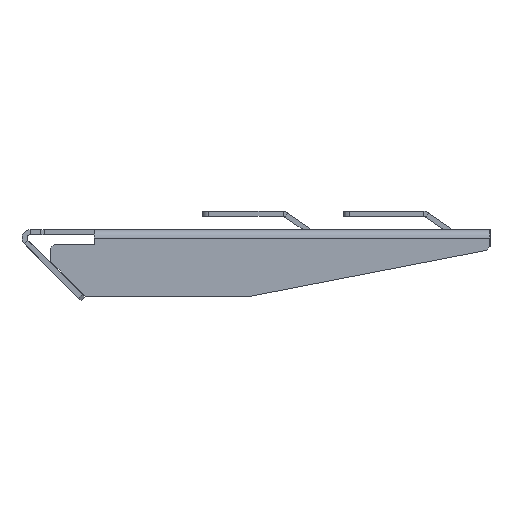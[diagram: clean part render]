
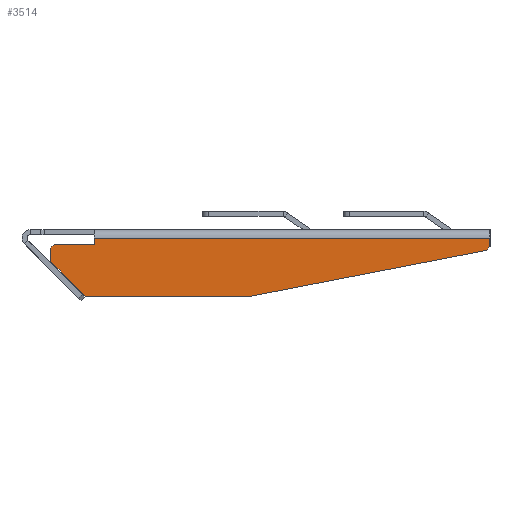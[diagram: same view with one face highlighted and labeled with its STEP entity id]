
A CAD part, left-side view. The second image highlights one B-rep face of the part: STEP entity #3514.
In plain terms, the highlighted planar face has unit normal (-1, 0, 0).
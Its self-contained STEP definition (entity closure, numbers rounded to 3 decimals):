
#372=FACE_OUTER_BOUND('',#590,.T.);
#590=EDGE_LOOP('',(#2977,#2978,#2979,#2980,#2981,#2982,#2983,#2984,#2985,
#2986));
#948=LINE('',#5790,#1328);
#950=LINE('',#5794,#1330);
#953=LINE('',#5800,#1333);
#954=LINE('',#5802,#1334);
#955=LINE('',#5804,#1335);
#956=LINE('',#5806,#1336);
#957=LINE('',#5808,#1337);
#958=LINE('',#5810,#1338);
#959=LINE('',#5812,#1339);
#960=LINE('',#5813,#1340);
#1328=VECTOR('',#4753,1.543);
#1330=VECTOR('',#4757,72.348);
#1333=VECTOR('',#4762,2.5);
#1334=VECTOR('',#4763,118.5);
#1335=VECTOR('',#4764,2.);
#1336=VECTOR('',#4765,12.);
#1337=VECTOR('',#4766,1.414);
#1338=VECTOR('',#4767,4.13);
#1339=VECTOR('',#4768,14.665);
#1340=VECTOR('',#4769,49.13);
#1659=VERTEX_POINT('',#5787);
#1660=VERTEX_POINT('',#5789);
#1661=VERTEX_POINT('',#5793);
#1663=VERTEX_POINT('',#5799);
#1664=VERTEX_POINT('',#5801);
#1665=VERTEX_POINT('',#5803);
#1666=VERTEX_POINT('',#5805);
#1667=VERTEX_POINT('',#5807);
#1668=VERTEX_POINT('',#5809);
#1669=VERTEX_POINT('',#5811);
#2116=EDGE_CURVE('',#1659,#1660,#948,.T.);
#2118=EDGE_CURVE('',#1661,#1660,#950,.T.);
#2121=EDGE_CURVE('',#1663,#1659,#953,.T.);
#2122=EDGE_CURVE('',#1664,#1663,#954,.T.);
#2123=EDGE_CURVE('',#1664,#1665,#955,.T.);
#2124=EDGE_CURVE('',#1666,#1665,#956,.T.);
#2125=EDGE_CURVE('',#1667,#1666,#957,.T.);
#2126=EDGE_CURVE('',#1668,#1667,#958,.T.);
#2127=EDGE_CURVE('',#1669,#1668,#959,.T.);
#2128=EDGE_CURVE('',#1669,#1661,#960,.T.);
#2977=ORIENTED_EDGE('',*,*,#2116,.F.);
#2978=ORIENTED_EDGE('',*,*,#2121,.F.);
#2979=ORIENTED_EDGE('',*,*,#2122,.F.);
#2980=ORIENTED_EDGE('',*,*,#2123,.T.);
#2981=ORIENTED_EDGE('',*,*,#2124,.F.);
#2982=ORIENTED_EDGE('',*,*,#2125,.F.);
#2983=ORIENTED_EDGE('',*,*,#2126,.F.);
#2984=ORIENTED_EDGE('',*,*,#2127,.F.);
#2985=ORIENTED_EDGE('',*,*,#2128,.T.);
#2986=ORIENTED_EDGE('',*,*,#2118,.T.);
#3320=PLANE('',#3851);
#3514=ADVANCED_FACE('',(#372),#3320,.F.);
#3851=AXIS2_PLACEMENT_3D('',#5798,#4760,#4761);
#4753=DIRECTION('',(0.,0.636,-0.772));
#4757=DIRECTION('',(0.,-0.982,0.191));
#4760=DIRECTION('center_axis',(1.,0.,0.));
#4761=DIRECTION('ref_axis',(0.,0.,-1.));
#4762=DIRECTION('',(0.,0.,-1.));
#4763=DIRECTION('',(0.,-1.,0.));
#4764=DIRECTION('',(0.,0.,-1.));
#4765=DIRECTION('',(0.,-1.,0.));
#4766=DIRECTION('',(0.,-0.707,0.707));
#4767=DIRECTION('',(0.,0.,1.));
#4768=DIRECTION('',(0.,0.707,0.707));
#4769=DIRECTION('',(0.,-1.,0.));
#5787=CARTESIAN_POINT('',(-93.,-71.842,-3.5));
#5789=CARTESIAN_POINT('',(-93.,-70.86,-4.691));
#5790=CARTESIAN_POINT('',(-93.,-71.842,-3.5));
#5793=CARTESIAN_POINT('',(-93.,0.158,-18.5));
#5794=CARTESIAN_POINT('',(-93.,0.158,-18.5));
#5798=CARTESIAN_POINT('Origin',(-93.,-9.092,-8.493));
#5799=CARTESIAN_POINT('',(-93.,-71.842,-1.));
#5800=CARTESIAN_POINT('',(-93.,-71.842,-1.));
#5801=CARTESIAN_POINT('',(-93.,46.658,-1.));
#5802=CARTESIAN_POINT('',(-93.,46.658,-1.));
#5803=CARTESIAN_POINT('',(-93.,46.658,-3.));
#5804=CARTESIAN_POINT('',(-93.,46.658,-1.));
#5805=CARTESIAN_POINT('',(-93.,58.658,-3.));
#5806=CARTESIAN_POINT('',(-93.,58.658,-3.));
#5807=CARTESIAN_POINT('',(-93.,59.658,-4.));
#5808=CARTESIAN_POINT('',(-93.,59.658,-4.));
#5809=CARTESIAN_POINT('',(-93.,59.658,-8.13));
#5810=CARTESIAN_POINT('',(-93.,59.658,-8.13));
#5811=CARTESIAN_POINT('',(-93.,49.288,-18.5));
#5812=CARTESIAN_POINT('',(-93.,49.288,-18.5));
#5813=CARTESIAN_POINT('',(-93.,49.288,-18.5));
